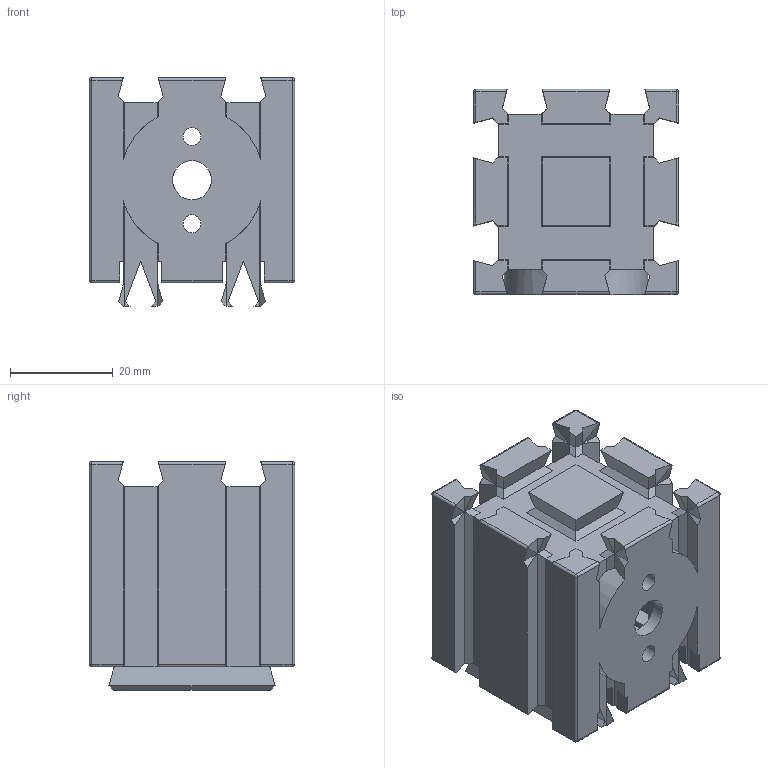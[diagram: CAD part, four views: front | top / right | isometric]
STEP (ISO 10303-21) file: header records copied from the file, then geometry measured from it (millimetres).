
FILE_DESCRIPTION(/* description */ (''),/* implementation_level */ '2;1');
FILE_NAME(/* name */ 'C:/Users/priba/Downloads/BrickDouble24mmMotorHolder.step',/* time_stamp */ '2022-04-03T23:49:55+02:00',/* author */ (''),/* organization */ (''),/* preprocessor_version */ 'ST-DEVELOPER v18.1',/* originating_system */ 'Autodesk Translation Framework v10.13.0.1454',/* authorisation */ '');
FILE_SCHEMA (('AUTOMOTIVE_DESIGN { 1 0 10303 214 3 1 1 }'));
Length unit declared in the file: millimetre
Products named in the file (2): BrickDouble24mmMotorHolder; Brick 2x2x2 itself
Assembly tree (1 placements, depth 2):
  BrickDouble24mmMotorHolder
    Brick 2x2x2 itself
Bounding box: 40 x 40 x 44.61 mm (x, y, z)
Volume: 16212.7 mm3; surface area: 24215.5 mm2
Topology: 1 solids, 1 shells, 512 faces, 1287 edges, 770 vertices
Faces by surface type: plane 467, cylinder 37, sphere 8
Full cylindrical faces by diameter (mm): 3.5 x2, 7.6 x1, 25 x2
Entity records: 14886 total; most frequent: ORIENTED_EDGE 2574, CARTESIAN_POINT 2572, DIRECTION 2471, EDGE_CURVE 1287, LINE 1133, VECTOR 1133, VERTEX_POINT 770, AXIS2_PLACEMENT_3D 669
